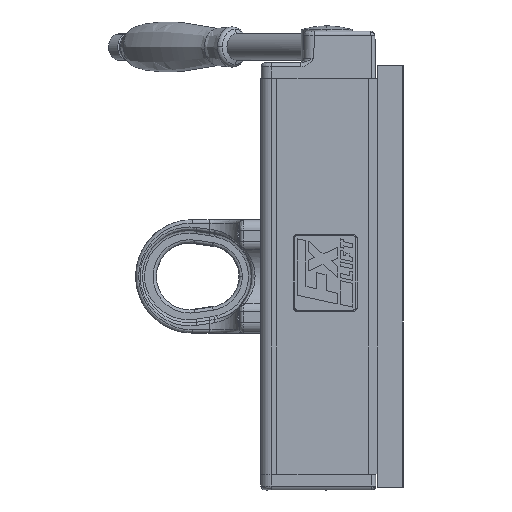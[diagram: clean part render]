
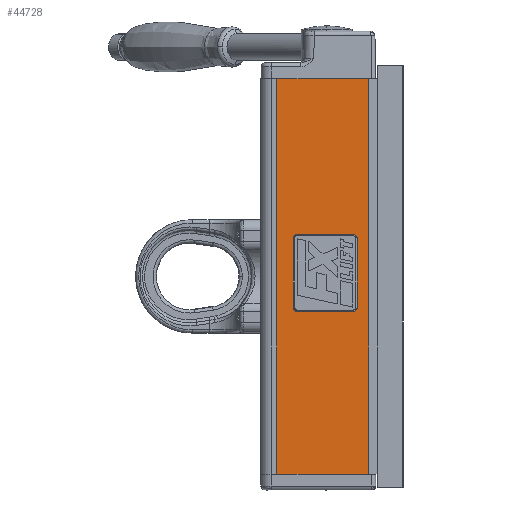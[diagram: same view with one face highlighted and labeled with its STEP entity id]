
A CAD part, left-side view. The second image highlights one B-rep face of the part: STEP entity #44728.
In plain terms, the highlighted planar face has unit normal (-1, 0, 0).
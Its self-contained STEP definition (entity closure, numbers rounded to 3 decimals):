
#175 = CARTESIAN_POINT ( 'NONE',  ( -54.5, -21.512, -26.537 ) ) ;
#182 = CARTESIAN_POINT ( 'NONE',  ( -54.5, -32.5, 150. ) ) ;
#593 = CARTESIAN_POINT ( 'NONE',  ( -54.5, -21.512, 31.756 ) ) ;
#794 = CARTESIAN_POINT ( 'NONE',  ( -54.5, 38., 150. ) ) ;
#1600 = LINE ( 'NONE', #48194, #3096 ) ;
#2502 = VECTOR ( 'NONE', #43506, 1000. ) ;
#2614 = CARTESIAN_POINT ( 'NONE',  ( -54.5, 22.37, 31.756 ) ) ;
#2644 = EDGE_CURVE ( 'NONE', #4997, #54825, #62672, .T. ) ;
#3096 = VECTOR ( 'NONE', #19038, 1000. ) ;
#3362 = B_SPLINE_CURVE_WITH_KNOTS ( 'NONE', 3,
 ( #31783, #31379, #22007, #2614 ),
 .UNSPECIFIED., .F., .F.,
 ( 4, 4 ),
 ( 0.111, 0.222 ),
 .UNSPECIFIED. ) ;
#3656 = VECTOR ( 'NONE', #46480, 1000. ) ;
#3879 = EDGE_CURVE ( 'NONE', #31360, #37095, #28027, .T. ) ;
#3929 = LINE ( 'NONE', #39054, #42788 ) ;
#4997 = VERTEX_POINT ( 'NONE', #52099 ) ;
#5345 = ORIENTED_EDGE ( 'NONE', *, *, #54229, .T. ) ;
#7381 = ORIENTED_EDGE ( 'NONE', *, *, #60217, .T. ) ;
#9454 = CARTESIAN_POINT ( 'NONE',  ( -54.5, 38., 150. ) ) ;
#9886 = DIRECTION ( 'NONE',  ( 0., -1., 0. ) ) ;
#10239 = DIRECTION ( 'NONE',  ( 1., 0., 0. ) ) ;
#10374 = CARTESIAN_POINT ( 'NONE',  ( -54.5, -22.969, 30.299 ) ) ;
#10375 = VECTOR ( 'NONE', #58530, 1000. ) ;
#10585 = CARTESIAN_POINT ( 'NONE',  ( -54.5, 22.37, -26.537 ) ) ;
#12395 = CARTESIAN_POINT ( 'NONE',  ( -54.5, -22.969, 0. ) ) ;
#13379 = LINE ( 'NONE', #182, #10375 ) ;
#14699 = EDGE_CURVE ( 'NONE', #53745, #61493, #3362, .T. ) ;
#15731 = ORIENTED_EDGE ( 'NONE', *, *, #43147, .T. ) ;
#16140 = VERTEX_POINT ( 'NONE', #24750 ) ;
#16333 = B_SPLINE_CURVE_WITH_KNOTS ( 'NONE', 3,
 ( #19525, #48715, #175, #34242 ),
 .UNSPECIFIED., .F., .F.,
 ( 4, 4 ),
 ( 0.556, 0.667 ),
 .UNSPECIFIED. ) ;
#16534 = DIRECTION ( 'NONE',  ( 0., 1., 0. ) ) ;
#17332 = CARTESIAN_POINT ( 'NONE',  ( -54.5, 22.37, 31.756 ) ) ;
#17982 = ORIENTED_EDGE ( 'NONE', *, *, #62842, .F. ) ;
#19038 = DIRECTION ( 'NONE',  ( 0., 0., -1. ) ) ;
#19525 = CARTESIAN_POINT ( 'NONE',  ( -54.5, -22.969, -23.298 ) ) ;
#19750 = CARTESIAN_POINT ( 'NONE',  ( -54.5, -19.731, 31.756 ) ) ;
#21733 = VERTEX_POINT ( 'NONE', #53864 ) ;
#22007 = CARTESIAN_POINT ( 'NONE',  ( -54.5, 24.151, 31.756 ) ) ;
#22013 = FACE_OUTER_BOUND ( 'NONE', #45270, .T. ) ;
#22948 = VERTEX_POINT ( 'NONE', #44412 ) ;
#23964 = ORIENTED_EDGE ( 'NONE', *, *, #29897, .T. ) ;
#24045 = CARTESIAN_POINT ( 'NONE',  ( -54.5, -22.969, 28.518 ) ) ;
#24157 = ORIENTED_EDGE ( 'NONE', *, *, #25681, .T. ) ;
#24573 = ORIENTED_EDGE ( 'NONE', *, *, #2644, .T. ) ;
#24662 = LINE ( 'NONE', #56236, #49063 ) ;
#24675 = CARTESIAN_POINT ( 'NONE',  ( -54.5, 38., 150. ) ) ;
#24750 = CARTESIAN_POINT ( 'NONE',  ( -54.5, 38., -150. ) ) ;
#25429 = LINE ( 'NONE', #35024, #49827 ) ;
#25681 = EDGE_CURVE ( 'NONE', #21733, #4997, #42980, .T. ) ;
#26294 = CARTESIAN_POINT ( 'NONE',  ( -54.5, 0., -26.537 ) ) ;
#28027 = LINE ( 'NONE', #12395, #3656 ) ;
#28075 = CARTESIAN_POINT ( 'NONE',  ( -54.5, -22.969, -23.298 ) ) ;
#29798 = CARTESIAN_POINT ( 'NONE',  ( -54.5, -32.5, -150. ) ) ;
#29897 = EDGE_CURVE ( 'NONE', #53868, #16140, #1600, .T. ) ;
#30293 = VERTEX_POINT ( 'NONE', #29798 ) ;
#31048 = VERTEX_POINT ( 'NONE', #60144 ) ;
#31360 = VERTEX_POINT ( 'NONE', #24045 ) ;
#31379 = CARTESIAN_POINT ( 'NONE',  ( -54.5, 25.608, 30.299 ) ) ;
#31783 = CARTESIAN_POINT ( 'NONE',  ( -54.5, 25.608, 28.518 ) ) ;
#34242 = CARTESIAN_POINT ( 'NONE',  ( -54.5, -19.731, -26.537 ) ) ;
#34853 = CARTESIAN_POINT ( 'NONE',  ( -54.5, 25.608, -25.079 ) ) ;
#34995 = FACE_BOUND ( 'NONE', #60785, .T. ) ;
#35024 = CARTESIAN_POINT ( 'NONE',  ( -54.5, 25.608, 0. ) ) ;
#36888 = ORIENTED_EDGE ( 'NONE', *, *, #14699, .T. ) ;
#37095 = VERTEX_POINT ( 'NONE', #28075 ) ;
#39054 = CARTESIAN_POINT ( 'NONE',  ( -54.5, 0., 31.756 ) ) ;
#39877 = EDGE_CURVE ( 'NONE', #22948, #30293, #13379, .T. ) ;
#41476 = VECTOR ( 'NONE', #16534, 1000. ) ;
#41917 = EDGE_CURVE ( 'NONE', #54825, #53745, #25429, .T. ) ;
#42788 = VECTOR ( 'NONE', #9886, 1000. ) ;
#42980 = LINE ( 'NONE', #26294, #41476 ) ;
#43125 = EDGE_CURVE ( 'NONE', #37095, #21733, #16333, .T. ) ;
#43147 = EDGE_CURVE ( 'NONE', #31048, #31360, #56927, .T. ) ;
#43506 = DIRECTION ( 'NONE',  ( 0., -1., 0. ) ) ;
#44281 = DIRECTION ( 'NONE',  ( 0., 1., 0. ) ) ;
#44412 = CARTESIAN_POINT ( 'NONE',  ( -54.5, -32.5, 150. ) ) ;
#44421 = CARTESIAN_POINT ( 'NONE',  ( -54.5, -22.969, 28.518 ) ) ;
#44607 = CARTESIAN_POINT ( 'NONE',  ( -54.5, 25.608, -23.298 ) ) ;
#44728 = ADVANCED_FACE ( 'NONE', ( #22013, #34995 ), #58810, .F. ) ;
#45270 = EDGE_LOOP ( 'NONE', ( #7381, #62753, #17982, #23964 ) ) ;
#46480 = DIRECTION ( 'NONE',  ( 0., 0., -1. ) ) ;
#48194 = CARTESIAN_POINT ( 'NONE',  ( -54.5, 38., 150. ) ) ;
#48715 = CARTESIAN_POINT ( 'NONE',  ( -54.5, -22.969, -25.079 ) ) ;
#48839 = ORIENTED_EDGE ( 'NONE', *, *, #3879, .T. ) ;
#49063 = VECTOR ( 'NONE', #51333, 1000. ) ;
#49312 = CARTESIAN_POINT ( 'NONE',  ( -54.5, 24.151, -26.537 ) ) ;
#49827 = VECTOR ( 'NONE', #54605, 1000. ) ;
#50630 = CARTESIAN_POINT ( 'NONE',  ( -54.5, 25.608, -23.298 ) ) ;
#51333 = DIRECTION ( 'NONE',  ( 0., -1., 0. ) ) ;
#51863 = ORIENTED_EDGE ( 'NONE', *, *, #41917, .T. ) ;
#52099 = CARTESIAN_POINT ( 'NONE',  ( -54.5, 22.37, -26.537 ) ) ;
#53745 = VERTEX_POINT ( 'NONE', #57642 ) ;
#53864 = CARTESIAN_POINT ( 'NONE',  ( -54.5, -19.731, -26.537 ) ) ;
#53868 = VERTEX_POINT ( 'NONE', #794 ) ;
#54229 = EDGE_CURVE ( 'NONE', #61493, #31048, #3929, .T. ) ;
#54365 = LINE ( 'NONE', #9454, #2502 ) ;
#54605 = DIRECTION ( 'NONE',  ( 0., 0., 1. ) ) ;
#54825 = VERTEX_POINT ( 'NONE', #50630 ) ;
#56236 = CARTESIAN_POINT ( 'NONE',  ( -54.5, 38., -150. ) ) ;
#56808 = AXIS2_PLACEMENT_3D ( 'NONE', #24675, #10239, #44281 ) ;
#56927 = B_SPLINE_CURVE_WITH_KNOTS ( 'NONE', 3,
 ( #19750, #593, #10374, #44421 ),
 .UNSPECIFIED., .F., .F.,
 ( 4, 4 ),
 ( 0.333, 0.444 ),
 .UNSPECIFIED. ) ;
#57642 = CARTESIAN_POINT ( 'NONE',  ( -54.5, 25.608, 28.518 ) ) ;
#58530 = DIRECTION ( 'NONE',  ( 0., 0., -1. ) ) ;
#58810 = PLANE ( 'NONE',  #56808 ) ;
#60144 = CARTESIAN_POINT ( 'NONE',  ( -54.5, -19.731, 31.756 ) ) ;
#60217 = EDGE_CURVE ( 'NONE', #16140, #30293, #24662, .T. ) ;
#60785 = EDGE_LOOP ( 'NONE', ( #24573, #51863, #36888, #5345, #15731, #48839, #61371, #24157 ) ) ;
#61371 = ORIENTED_EDGE ( 'NONE', *, *, #43125, .T. ) ;
#61493 = VERTEX_POINT ( 'NONE', #17332 ) ;
#62672 = B_SPLINE_CURVE_WITH_KNOTS ( 'NONE', 3,
 ( #10585, #49312, #34853, #44607 ),
 .UNSPECIFIED., .F., .F.,
 ( 4, 4 ),
 ( 0.778, 1. ),
 .UNSPECIFIED. ) ;
#62753 = ORIENTED_EDGE ( 'NONE', *, *, #39877, .F. ) ;
#62842 = EDGE_CURVE ( 'NONE', #53868, #22948, #54365, .T. ) ;
